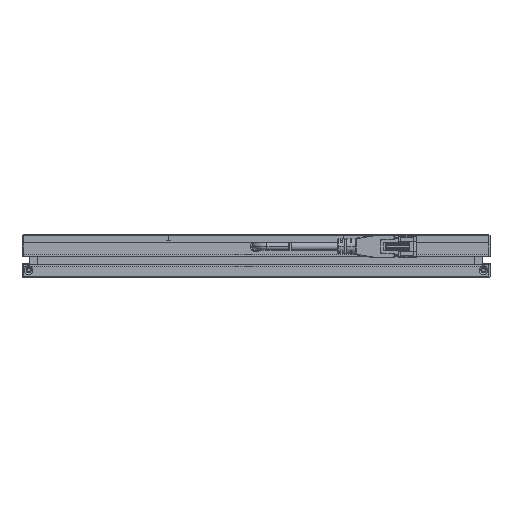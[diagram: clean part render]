
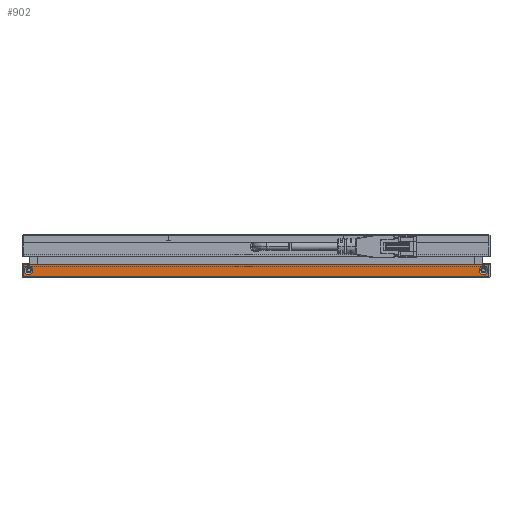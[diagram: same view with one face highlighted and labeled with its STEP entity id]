
A CAD part, left-side view. The second image highlights one B-rep face of the part: STEP entity #902.
In plain terms, the highlighted planar face has unit normal (-1, 0, 0).
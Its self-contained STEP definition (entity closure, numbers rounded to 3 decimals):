
#186 = DIRECTION ( 'NONE',  ( 1., 0., 0. ) ) ;
#601 = VERTEX_POINT ( 'NONE', #6498 ) ;
#902 = ADVANCED_FACE ( 'NONE', ( #10560, #8030, #6199 ), #11059, .F. ) ;
#1042 = AXIS2_PLACEMENT_3D ( 'NONE', #9014, #186, #6978 ) ;
#1142 = LINE ( 'NONE', #2151, #4622 ) ;
#1329 = CARTESIAN_POINT ( 'NONE',  ( -157., 106.5, -15.5 ) ) ;
#1465 = ORIENTED_EDGE ( 'NONE', *, *, #6920, .F. ) ;
#1482 = VERTEX_POINT ( 'NONE', #8711 ) ;
#1702 = DIRECTION ( 'NONE',  ( 1., 0., 0. ) ) ;
#1746 = CARTESIAN_POINT ( 'NONE',  ( -157., 106.5, -9.85 ) ) ;
#2150 = VECTOR ( 'NONE', #6380, 1000. ) ;
#2151 = CARTESIAN_POINT ( 'NONE',  ( -157., 107., -9.85 ) ) ;
#2192 = CARTESIAN_POINT ( 'NONE',  ( -157., -106.5, 0. ) ) ;
#2487 = CIRCLE ( 'NONE', #4369, 2. ) ;
#3165 = AXIS2_PLACEMENT_3D ( 'NONE', #7475, #9519, #11404 ) ;
#3443 = DIRECTION ( 'NONE',  ( 1., 0., 0. ) ) ;
#4225 = VECTOR ( 'NONE', #11492, 1000. ) ;
#4369 = AXIS2_PLACEMENT_3D ( 'NONE', #4502, #3443, #5362 ) ;
#4502 = CARTESIAN_POINT ( 'NONE',  ( -157., 104., -12.5 ) ) ;
#4622 = VECTOR ( 'NONE', #10315, 1000. ) ;
#4640 = DIRECTION ( 'NONE',  ( 0., 0., -1. ) ) ;
#5000 = EDGE_CURVE ( 'NONE', #10829, #1482, #11677, .T. ) ;
#5017 = VERTEX_POINT ( 'NONE', #11446 ) ;
#5356 = AXIS2_PLACEMENT_3D ( 'NONE', #10545, #1702, #4640 ) ;
#5362 = DIRECTION ( 'NONE',  ( 0., 0., -1. ) ) ;
#5457 = ORIENTED_EDGE ( 'NONE', *, *, #8990, .T. ) ;
#5741 = CARTESIAN_POINT ( 'NONE',  ( -157., -106.5, -9.85 ) ) ;
#5958 = DIRECTION ( 'NONE',  ( 1., 0., 0. ) ) ;
#5979 = LINE ( 'NONE', #9533, #2150 ) ;
#6169 = VERTEX_POINT ( 'NONE', #10673 ) ;
#6199 = FACE_OUTER_BOUND ( 'NONE', #10512, .T. ) ;
#6380 = DIRECTION ( 'NONE',  ( 0., 0., -1. ) ) ;
#6498 = CARTESIAN_POINT ( 'NONE',  ( -157., -104., -14.5 ) ) ;
#6507 = ORIENTED_EDGE ( 'NONE', *, *, #8525, .T. ) ;
#6514 = ORIENTED_EDGE ( 'NONE', *, *, #8293, .T. ) ;
#6836 = ORIENTED_EDGE ( 'NONE', *, *, #6959, .T. ) ;
#6920 = EDGE_CURVE ( 'NONE', #8464, #7189, #1142, .T. ) ;
#6959 = EDGE_CURVE ( 'NONE', #6169, #5017, #2487, .T. ) ;
#6978 = DIRECTION ( 'NONE',  ( 0., 0., -1. ) ) ;
#7182 = AXIS2_PLACEMENT_3D ( 'NONE', #9919, #5958, #12053 ) ;
#7189 = VERTEX_POINT ( 'NONE', #5741 ) ;
#7475 = CARTESIAN_POINT ( 'NONE',  ( -157., -104., -12.5 ) ) ;
#8030 = FACE_BOUND ( 'NONE', #12459, .T. ) ;
#8082 = EDGE_CURVE ( 'NONE', #12259, #601, #9858, .T. ) ;
#8265 = VECTOR ( 'NONE', #9062, 1000. ) ;
#8293 = EDGE_CURVE ( 'NONE', #8464, #10829, #5979, .T. ) ;
#8464 = VERTEX_POINT ( 'NONE', #1746 ) ;
#8525 = EDGE_CURVE ( 'NONE', #5017, #6169, #10021, .T. ) ;
#8711 = CARTESIAN_POINT ( 'NONE',  ( -157., -106.5, -15.5 ) ) ;
#8794 = ORIENTED_EDGE ( 'NONE', *, *, #8082, .T. ) ;
#8990 = EDGE_CURVE ( 'NONE', #601, #12259, #10800, .T. ) ;
#9014 = CARTESIAN_POINT ( 'NONE',  ( -157., -104., -12.5 ) ) ;
#9062 = DIRECTION ( 'NONE',  ( 0., 0., -1. ) ) ;
#9320 = EDGE_CURVE ( 'NONE', #7189, #1482, #10157, .T. ) ;
#9519 = DIRECTION ( 'NONE',  ( 1., 0., 0. ) ) ;
#9533 = CARTESIAN_POINT ( 'NONE',  ( -157., 106.5, 0. ) ) ;
#9814 = CARTESIAN_POINT ( 'NONE',  ( -157., -104., -10.5 ) ) ;
#9858 = CIRCLE ( 'NONE', #1042, 2. ) ;
#9919 = CARTESIAN_POINT ( 'NONE',  ( -157., 107., -15.5 ) ) ;
#10021 = CIRCLE ( 'NONE', #5356, 2. ) ;
#10157 = LINE ( 'NONE', #2192, #8265 ) ;
#10315 = DIRECTION ( 'NONE',  ( 0., -1., 0. ) ) ;
#10452 = EDGE_LOOP ( 'NONE', ( #6507, #6836 ) ) ;
#10512 = EDGE_LOOP ( 'NONE', ( #1465, #6514, #12415, #12239 ) ) ;
#10545 = CARTESIAN_POINT ( 'NONE',  ( -157., 104., -12.5 ) ) ;
#10560 = FACE_BOUND ( 'NONE', #10452, .T. ) ;
#10673 = CARTESIAN_POINT ( 'NONE',  ( -157., 104., -10.5 ) ) ;
#10800 = CIRCLE ( 'NONE', #3165, 2. ) ;
#10829 = VERTEX_POINT ( 'NONE', #1329 ) ;
#11059 = PLANE ( 'NONE',  #7182 ) ;
#11404 = DIRECTION ( 'NONE',  ( 0., 0., -1. ) ) ;
#11410 = CARTESIAN_POINT ( 'NONE',  ( -157., 107., -15.5 ) ) ;
#11446 = CARTESIAN_POINT ( 'NONE',  ( -157., 104., -14.5 ) ) ;
#11492 = DIRECTION ( 'NONE',  ( 0., -1., 0. ) ) ;
#11677 = LINE ( 'NONE', #11410, #4225 ) ;
#12053 = DIRECTION ( 'NONE',  ( 0., 0., 1. ) ) ;
#12239 = ORIENTED_EDGE ( 'NONE', *, *, #9320, .F. ) ;
#12259 = VERTEX_POINT ( 'NONE', #9814 ) ;
#12415 = ORIENTED_EDGE ( 'NONE', *, *, #5000, .T. ) ;
#12459 = EDGE_LOOP ( 'NONE', ( #5457, #8794 ) ) ;
